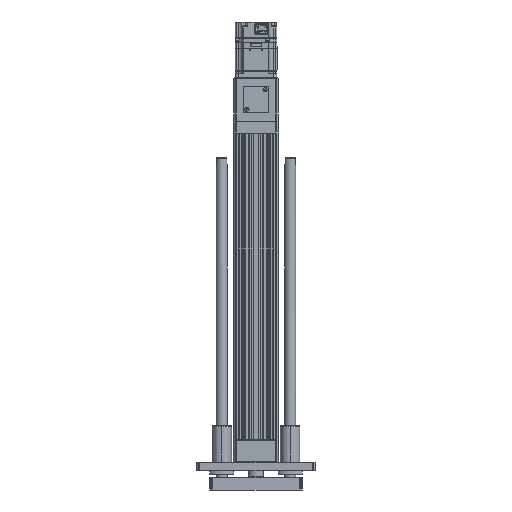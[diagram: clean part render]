
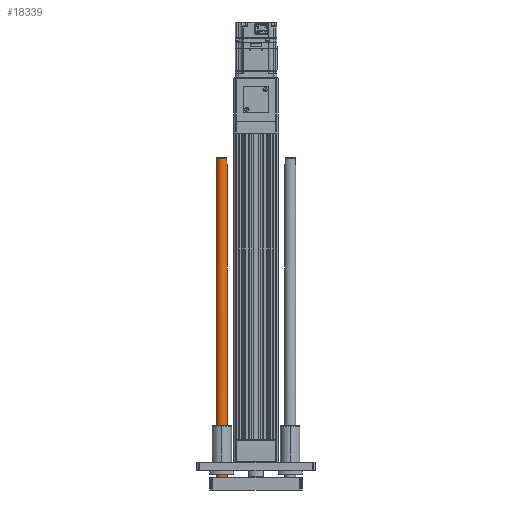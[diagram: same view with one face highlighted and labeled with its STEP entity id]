
A CAD part, left-side view. The second image highlights one B-rep face of the part: STEP entity #18339.
In plain terms, the highlighted cylindrical face has radius 8 mm (diameter 16 mm), a partial arc.
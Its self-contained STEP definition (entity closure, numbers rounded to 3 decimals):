
#1142 = CYLINDRICAL_SURFACE ( 'NONE', #31808, 8. ) ;
#1284 = DIRECTION ( 'NONE',  ( -1., 0., 0. ) ) ;
#1405 = DIRECTION ( 'NONE',  ( 1., 0., 0. ) ) ;
#1713 = VERTEX_POINT ( 'NONE', #18315 ) ;
#1809 = CIRCLE ( 'NONE', #29965, 8. ) ;
#2202 = CARTESIAN_POINT ( 'NONE',  ( 49., 0., 457.5 ) ) ;
#2208 = ORIENTED_EDGE ( 'NONE', *, *, #31874, .T. ) ;
#2761 = EDGE_CURVE ( 'NONE', #1713, #16011, #21999, .T. ) ;
#5708 = DIRECTION ( 'NONE',  ( 1., 0., 0. ) ) ;
#6082 = ORIENTED_EDGE ( 'NONE', *, *, #43824, .T. ) ;
#6173 = DIRECTION ( 'NONE',  ( 0., 0., -1. ) ) ;
#6238 = VERTEX_POINT ( 'NONE', #31403 ) ;
#6280 = AXIS2_PLACEMENT_3D ( 'NONE', #13896, #38396, #17410 ) ;
#7856 = CIRCLE ( 'NONE', #24581, 8. ) ;
#8892 = VERTEX_POINT ( 'NONE', #24027 ) ;
#10652 = ORIENTED_EDGE ( 'NONE', *, *, #42147, .F. ) ;
#10787 = CARTESIAN_POINT ( 'NONE',  ( 41., 0., 458. ) ) ;
#11327 = ORIENTED_EDGE ( 'NONE', *, *, #43152, .T. ) ;
#11493 = FACE_OUTER_BOUND ( 'NONE', #41163, .T. ) ;
#11824 = ORIENTED_EDGE ( 'NONE', *, *, #2761, .F. ) ;
#12820 = CARTESIAN_POINT ( 'NONE',  ( 57., 0., 448. ) ) ;
#13247 = VERTEX_POINT ( 'NONE', #23549 ) ;
#13896 = CARTESIAN_POINT ( 'NONE',  ( 49., 0., 0. ) ) ;
#13920 = ORIENTED_EDGE ( 'NONE', *, *, #45169, .F. ) ;
#15645 = CARTESIAN_POINT ( 'NONE',  ( 56., 3.873, 458. ) ) ;
#15689 = VECTOR ( 'NONE', #24931, 1000. ) ;
#15891 = VERTEX_POINT ( 'NONE', #12820 ) ;
#16011 = VERTEX_POINT ( 'NONE', #31228 ) ;
#16497 = CARTESIAN_POINT ( 'NONE',  ( 57., 0., 458. ) ) ;
#16559 = VERTEX_POINT ( 'NONE', #31031 ) ;
#17410 = DIRECTION ( 'NONE',  ( 1., 0., 0. ) ) ;
#17559 = VECTOR ( 'NONE', #19326, 1000. ) ;
#18005 = DIRECTION ( 'NONE',  ( 0., 0., 1. ) ) ;
#18315 = CARTESIAN_POINT ( 'NONE',  ( 42., 3.873, 457.5 ) ) ;
#18339 = ADVANCED_FACE ( 'NONE', ( #11493 ), #1142, .T. ) ;
#18365 = LINE ( 'NONE', #16497, #38096 ) ;
#18679 = DIRECTION ( 'NONE',  ( 0., 0., -1. ) ) ;
#19326 = DIRECTION ( 'NONE',  ( 0., 0., 1. ) ) ;
#21999 = LINE ( 'NONE', #27164, #40577 ) ;
#22320 = DIRECTION ( 'NONE',  ( 0., 0., 1. ) ) ;
#23549 = CARTESIAN_POINT ( 'NONE',  ( 41., 0., 448. ) ) ;
#24027 = CARTESIAN_POINT ( 'NONE',  ( 57., 0., 0. ) ) ;
#24581 = AXIS2_PLACEMENT_3D ( 'NONE', #38995, #18005, #42479 ) ;
#24931 = DIRECTION ( 'NONE',  ( 0., 0., -1. ) ) ;
#26239 = CARTESIAN_POINT ( 'NONE',  ( 56., 3.873, 448. ) ) ;
#26688 = DIRECTION ( 'NONE',  ( 0., 0., -1. ) ) ;
#26818 = DIRECTION ( 'NONE',  ( 0., 0., -1. ) ) ;
#26905 = LINE ( 'NONE', #15645, #17559 ) ;
#27164 = CARTESIAN_POINT ( 'NONE',  ( 42., 3.873, 458. ) ) ;
#29965 = AXIS2_PLACEMENT_3D ( 'NONE', #2202, #26688, #5708 ) ;
#31031 = CARTESIAN_POINT ( 'NONE',  ( 41., 0., 0. ) ) ;
#31228 = CARTESIAN_POINT ( 'NONE',  ( 42., 3.873, 448. ) ) ;
#31403 = CARTESIAN_POINT ( 'NONE',  ( 56., 3.873, 457.5 ) ) ;
#31808 = AXIS2_PLACEMENT_3D ( 'NONE', #39651, #18679, #1284 ) ;
#31874 = EDGE_CURVE ( 'NONE', #1713, #6238, #1809, .T. ) ;
#34361 = LINE ( 'NONE', #10787, #15689 ) ;
#37081 = VERTEX_POINT ( 'NONE', #26239 ) ;
#38016 = EDGE_CURVE ( 'NONE', #15891, #37081, #7856, .T. ) ;
#38096 = VECTOR ( 'NONE', #26818, 1000. ) ;
#38396 = DIRECTION ( 'NONE',  ( 0., 0., 1. ) ) ;
#38995 = CARTESIAN_POINT ( 'NONE',  ( 49., 0., 448. ) ) ;
#39318 = ORIENTED_EDGE ( 'NONE', *, *, #40131, .F. ) ;
#39434 = AXIS2_PLACEMENT_3D ( 'NONE', #43272, #22320, #1405 ) ;
#39651 = CARTESIAN_POINT ( 'NONE',  ( 49., 0., 458. ) ) ;
#40131 = EDGE_CURVE ( 'NONE', #37081, #6238, #26905, .T. ) ;
#40577 = VECTOR ( 'NONE', #6173, 1000. ) ;
#41163 = EDGE_LOOP ( 'NONE', ( #43284, #11327, #6082, #10652, #13920, #11824, #2208, #39318 ) ) ;
#42147 = EDGE_CURVE ( 'NONE', #13247, #16559, #34361, .T. ) ;
#42182 = CIRCLE ( 'NONE', #39434, 8. ) ;
#42479 = DIRECTION ( 'NONE',  ( 1., 0., 0. ) ) ;
#43152 = EDGE_CURVE ( 'NONE', #15891, #8892, #18365, .T. ) ;
#43272 = CARTESIAN_POINT ( 'NONE',  ( 49., 0., 448. ) ) ;
#43284 = ORIENTED_EDGE ( 'NONE', *, *, #38016, .F. ) ;
#43824 = EDGE_CURVE ( 'NONE', #8892, #16559, #44517, .T. ) ;
#44517 = CIRCLE ( 'NONE', #6280, 8. ) ;
#45169 = EDGE_CURVE ( 'NONE', #16011, #13247, #42182, .T. ) ;
